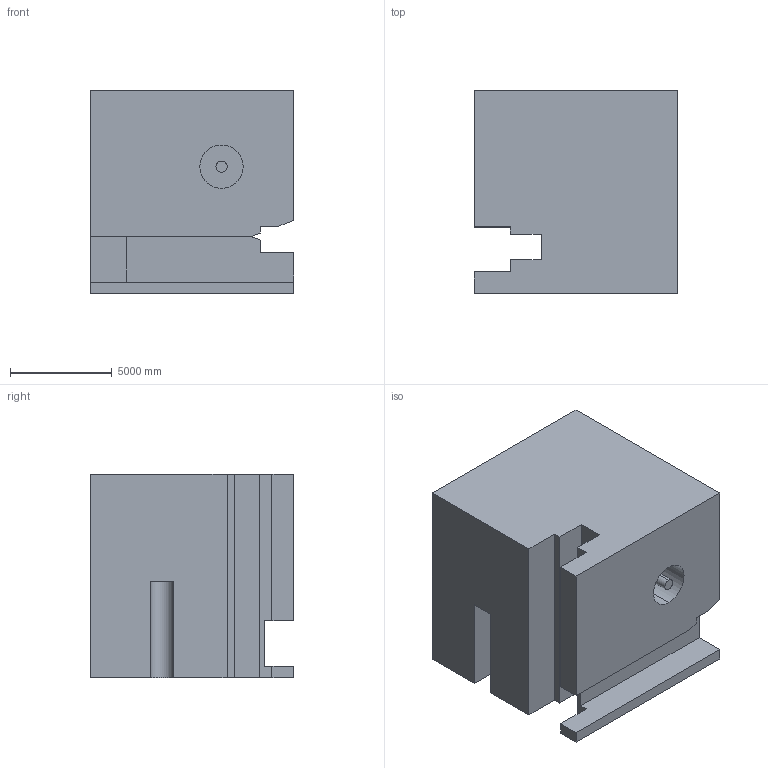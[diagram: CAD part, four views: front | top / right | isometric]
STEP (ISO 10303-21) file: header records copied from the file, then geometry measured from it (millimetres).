
FILE_DESCRIPTION (( 'STEP AP203' ), '1' );
FILE_NAME ('1794.STEP', '2022-08-25T15:48:06', ( 'user' ), ( '' ), 'SwSTEP 2.0', 'SolidWorks 2021', '' );
FILE_SCHEMA (( 'CONFIG_CONTROL_DESIGN' ));
Length unit declared in the file: centimetre
Products named in the file (1): 1794
Bounding box: 10000 x 10000 x 10000 mm (x, y, z)
Volume: 871351389668.4 mm3; surface area: 741034403.1 mm2
Topology: 1 solids, 1 shells, 44 faces, 120 edges, 80 vertices
Faces by surface type: plane 39, cylinder 5
Entity records: 1451 total; most frequent: CARTESIAN_POINT 245, ORIENTED_EDGE 240, DIRECTION 220, EDGE_CURVE 120, VECTOR 110, LINE 110, VERTEX_POINT 80, AXIS2_PLACEMENT_3D 55
